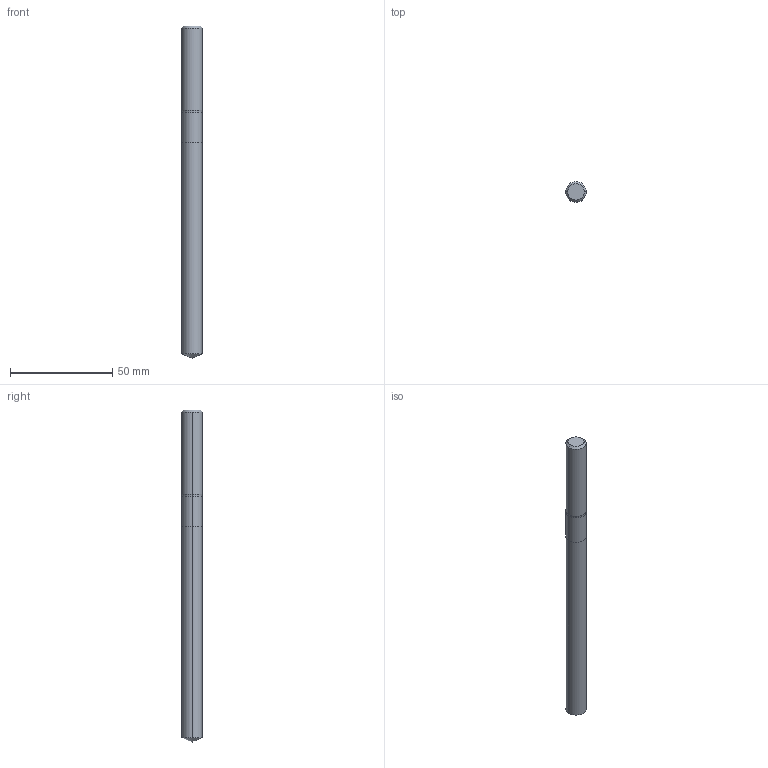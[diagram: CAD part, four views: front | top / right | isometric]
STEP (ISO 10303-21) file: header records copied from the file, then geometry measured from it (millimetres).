
FILE_DESCRIPTION (( 'STEP AP214' ), '1' );
FILE_NAME ('710.098.00_3D-model.step', '2022-02-22T04:42:19', ( '' ), ( '' ), 'SwSTEP 2.0', 'SolidWorks 2020', '' );
FILE_SCHEMA (( 'AUTOMOTIVE_DESIGN' ));
Length unit declared in the file: millimetre
Products named in the file (3): CUT-3D^Baugr162; 710.098.00_3D-model; NOCUT-3D^Baugr162
Assembly tree (2 placements, depth 2):
  710.098.00_3D-model
    CUT-3D^Baugr162
    NOCUT-3D^Baugr162
Bounding box: 10 x 10 x 162 mm (x, y, z)
Volume: 12231.7 mm3; surface area: 5242.7 mm2
Topology: 2 solids, 2 shells, 15 faces, 28 edges, 15 vertices
Faces by surface type: cylinder 6, cone 4, plane 3, torus 2
Entity records: 482 total; most frequent: DIRECTION 88, CARTESIAN_POINT 64, ORIENTED_EDGE 52, AXIS2_PLACEMENT_3D 39, EDGE_CURVE 26, CIRCLE 16, EDGE_LOOP 15, FACE_OUTER_BOUND 15
